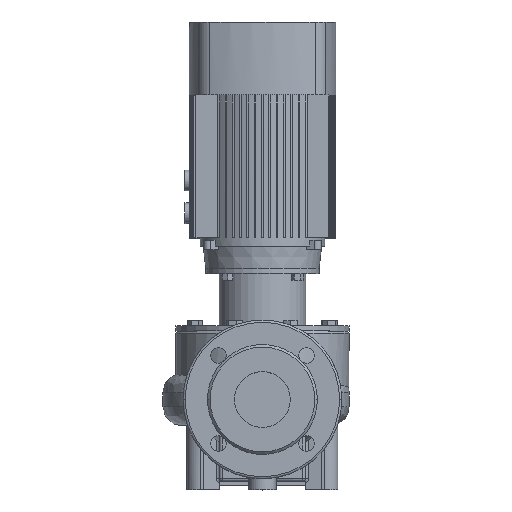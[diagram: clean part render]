
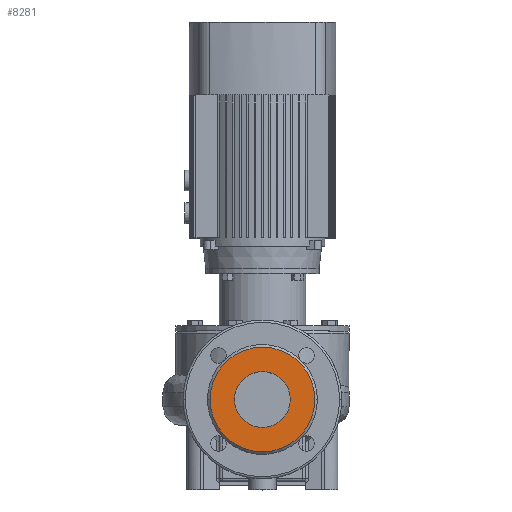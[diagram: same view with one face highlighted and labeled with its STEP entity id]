
A CAD part, top view. The second image highlights one B-rep face of the part: STEP entity #8281.
In plain terms, the highlighted planar face has unit normal (0, 0, 1).
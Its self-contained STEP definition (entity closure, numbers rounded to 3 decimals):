
#671 = AXIS2_PLACEMENT_3D ( 'NONE', #8828, #10489, #4451 ) ;
#1397 = ORIENTED_EDGE ( 'NONE', *, *, #10944, .T. ) ;
#1749 = CARTESIAN_POINT ( 'NONE',  ( 0., 0., 170. ) ) ;
#2651 = VERTEX_POINT ( 'NONE', #20046 ) ;
#2850 = VERTEX_POINT ( 'NONE', #26423 ) ;
#2907 = CIRCLE ( 'NONE', #23792, 32.5 ) ;
#4188 = CIRCLE ( 'NONE', #21613, 61. ) ;
#4451 = DIRECTION ( 'NONE',  ( 1., 0., 0. ) ) ;
#4697 = DIRECTION ( 'NONE',  ( 0., 0., -1. ) ) ;
#4823 = FACE_BOUND ( 'NONE', #14377, .T. ) ;
#5843 = CARTESIAN_POINT ( 'NONE',  ( -61., 0., 170. ) ) ;
#6349 = CIRCLE ( 'NONE', #18535, 61. ) ;
#6643 = EDGE_CURVE ( 'NONE', #17223, #15237, #4188, .T. ) ;
#8281 = ADVANCED_FACE ( 'NONE', ( #4823, #13038 ), #15204, .F. ) ;
#8290 = DIRECTION ( 'NONE',  ( 1., 0., 0. ) ) ;
#8828 = CARTESIAN_POINT ( 'NONE',  ( 0., 0., 170. ) ) ;
#9193 = CARTESIAN_POINT ( 'NONE',  ( 0., 61., 170. ) ) ;
#9210 = EDGE_LOOP ( 'NONE', ( #1397, #15004 ) ) ;
#9508 = CARTESIAN_POINT ( 'NONE',  ( 0., 0., 170. ) ) ;
#9953 = DIRECTION ( 'NONE',  ( 1., 0., 0. ) ) ;
#10081 = DIRECTION ( 'NONE',  ( 0., 0., 1. ) ) ;
#10489 = DIRECTION ( 'NONE',  ( 0., 0., 1. ) ) ;
#10944 = EDGE_CURVE ( 'NONE', #15237, #17223, #6349, .T. ) ;
#12452 = CIRCLE ( 'NONE', #671, 32.5 ) ;
#12554 = ORIENTED_EDGE ( 'NONE', *, *, #20060, .F. ) ;
#13038 = FACE_OUTER_BOUND ( 'NONE', #9210, .T. ) ;
#14377 = EDGE_LOOP ( 'NONE', ( #12554, #20585 ) ) ;
#15004 = ORIENTED_EDGE ( 'NONE', *, *, #6643, .T. ) ;
#15204 = PLANE ( 'NONE',  #15443 ) ;
#15237 = VERTEX_POINT ( 'NONE', #5843 ) ;
#15443 = AXIS2_PLACEMENT_3D ( 'NONE', #9193, #4697, #25530 ) ;
#15752 = DIRECTION ( 'NONE',  ( 0., 0., 1. ) ) ;
#16708 = DIRECTION ( 'NONE',  ( 0., 0., 1. ) ) ;
#17223 = VERTEX_POINT ( 'NONE', #23472 ) ;
#17648 = DIRECTION ( 'NONE',  ( 1., 0., 0. ) ) ;
#18535 = AXIS2_PLACEMENT_3D ( 'NONE', #1749, #10081, #9953 ) ;
#20046 = CARTESIAN_POINT ( 'NONE',  ( -32.5, 0., 170. ) ) ;
#20060 = EDGE_CURVE ( 'NONE', #2850, #2651, #12452, .T. ) ;
#20585 = ORIENTED_EDGE ( 'NONE', *, *, #21256, .F. ) ;
#21256 = EDGE_CURVE ( 'NONE', #2651, #2850, #2907, .T. ) ;
#21613 = AXIS2_PLACEMENT_3D ( 'NONE', #22844, #16708, #8290 ) ;
#22844 = CARTESIAN_POINT ( 'NONE',  ( 0., 0., 170. ) ) ;
#23472 = CARTESIAN_POINT ( 'NONE',  ( 61., 0., 170. ) ) ;
#23792 = AXIS2_PLACEMENT_3D ( 'NONE', #9508, #15752, #17648 ) ;
#25530 = DIRECTION ( 'NONE',  ( -1., 0., 0. ) ) ;
#26423 = CARTESIAN_POINT ( 'NONE',  ( 32.5, 0., 170. ) ) ;
